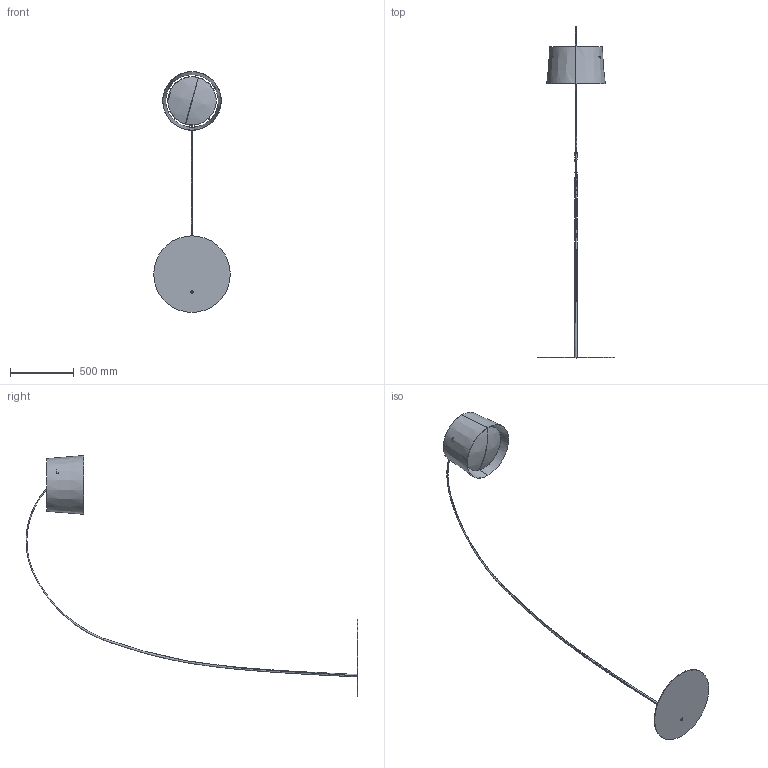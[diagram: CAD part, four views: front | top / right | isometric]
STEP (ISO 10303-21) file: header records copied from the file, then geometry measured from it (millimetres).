
FILE_DESCRIPTION (( 'STEP AP203' ), '1' );
FILE_NAME ('TWIGGY WOOD_terra_800mm.STEP', '2020-07-15T08:44:38', ( '' ), ( '' ), 'SwSTEP 2.0', 'SolidWorks 2020', '' );
FILE_SCHEMA (( 'CONFIG_CONTROL_DESIGN' ));
Length unit declared in the file: millimetre
Products named in the file (1): TWIGGY WOOD_terra_800mm
Bounding box: 600 x 2599.49 x 1887.33 mm (x, y, z)
Surface area: 1863182.8 mm2 (no closed solid volume)
Topology: 0 solids, 21 shells, 59 faces, 773 edges, 684 vertices
Faces by surface type: cone 18, bspline 18, torus 10, cylinder 6, sphere 4, plane 3
Entity records: 12418 total; most frequent: CARTESIAN_POINT 7229, DIRECTION 1106, ORIENTED_EDGE 882, EDGE_CURVE 773, VERTEX_POINT 684, AXIS2_PLACEMENT_3D 538, CIRCLE 496, B_SPLINE_CURVE_WITH_KNOTS 247
